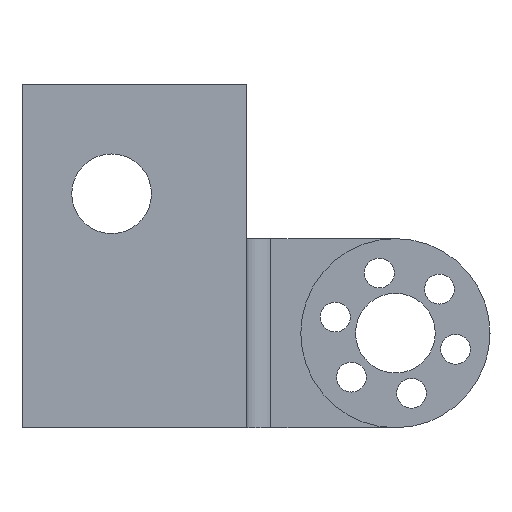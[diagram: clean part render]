
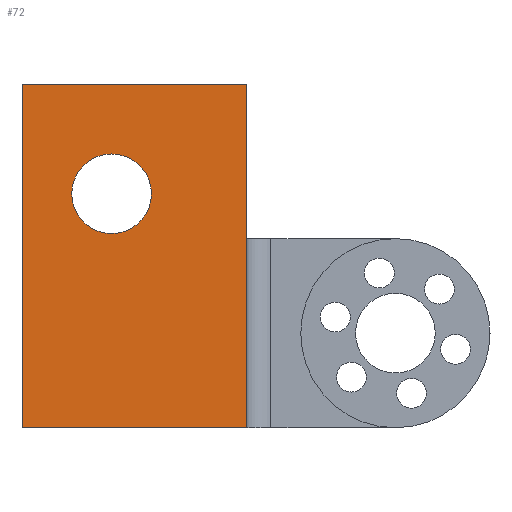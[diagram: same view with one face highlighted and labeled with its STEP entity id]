
A CAD part, left-side view. The second image highlights one B-rep face of the part: STEP entity #72.
In plain terms, the highlighted planar face has unit normal (-1, 0, 0).
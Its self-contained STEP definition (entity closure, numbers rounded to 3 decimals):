
#5 = PLANE ( 'NONE',  #820 ) ;
#7 = EDGE_LOOP ( 'NONE', ( #24, #149, #44, #1407 ) ) ;
#8 = CARTESIAN_POINT ( 'NONE',  ( 0., 0., -34.5 ) ) ;
#24 = ORIENTED_EDGE ( 'NONE', *, *, #1169, .F. ) ;
#44 = ORIENTED_EDGE ( 'NONE', *, *, #1389, .F. ) ;
#72 = ADVANCED_FACE ( 'NONE', ( #675, #875 ), #5, .T. ) ;
#99 = DIRECTION ( 'NONE',  ( -1., 0., 0. ) ) ;
#139 = DIRECTION ( 'NONE',  ( -1., 0., 0. ) ) ;
#141 = VECTOR ( 'NONE', #239, 1000. ) ;
#149 = ORIENTED_EDGE ( 'NONE', *, *, #171, .F. ) ;
#171 = EDGE_CURVE ( 'NONE', #769, #285, #969, .T. ) ;
#206 = VERTEX_POINT ( 'NONE', #1209 ) ;
#227 = CARTESIAN_POINT ( 'NONE',  ( 0., 0., 34.5 ) ) ;
#235 = CARTESIAN_POINT ( 'NONE',  ( 0., 27., 12.5 ) ) ;
#239 = DIRECTION ( 'NONE',  ( 0., 1., 0. ) ) ;
#241 = EDGE_CURVE ( 'NONE', #206, #1170, #1337, .T. ) ;
#249 = DIRECTION ( 'NONE',  ( 0., 0., 1. ) ) ;
#285 = VERTEX_POINT ( 'NONE', #8 ) ;
#330 = DIRECTION ( 'NONE',  ( 0., -1., 0. ) ) ;
#341 = VECTOR ( 'NONE', #534, 1000. ) ;
#388 = ORIENTED_EDGE ( 'NONE', *, *, #241, .F. ) ;
#396 = CARTESIAN_POINT ( 'NONE',  ( 0., 45., 34.5 ) ) ;
#429 = LINE ( 'NONE', #914, #141 ) ;
#458 = DIRECTION ( 'NONE',  ( -1., 0., 0. ) ) ;
#462 = CARTESIAN_POINT ( 'NONE',  ( 0., 45., -34.5 ) ) ;
#506 = LINE ( 'NONE', #982, #1081 ) ;
#534 = DIRECTION ( 'NONE',  ( 0., 0., -1. ) ) ;
#547 = DIRECTION ( 'NONE',  ( 0., 0., 1. ) ) ;
#581 = VERTEX_POINT ( 'NONE', #396 ) ;
#589 = DIRECTION ( 'NONE',  ( 0., 0., 1. ) ) ;
#597 = EDGE_CURVE ( 'NONE', #1195, #581, #506, .T. ) ;
#675 = FACE_OUTER_BOUND ( 'NONE', #7, .T. ) ;
#769 = VERTEX_POINT ( 'NONE', #227 ) ;
#785 = CARTESIAN_POINT ( 'NONE',  ( 0., 27., 12.5 ) ) ;
#809 = LINE ( 'NONE', #1035, #1143 ) ;
#820 = AXIS2_PLACEMENT_3D ( 'NONE', #1244, #139, #249 ) ;
#827 = CIRCLE ( 'NONE', #1392, 8. ) ;
#875 = FACE_BOUND ( 'NONE', #1449, .T. ) ;
#882 = CARTESIAN_POINT ( 'NONE',  ( 0., 0., 34.5 ) ) ;
#902 = EDGE_CURVE ( 'NONE', #1170, #206, #827, .T. ) ;
#914 = CARTESIAN_POINT ( 'NONE',  ( 0., 0., -34.5 ) ) ;
#969 = LINE ( 'NONE', #882, #341 ) ;
#982 = CARTESIAN_POINT ( 'NONE',  ( 0., 45., 34.5 ) ) ;
#1019 = AXIS2_PLACEMENT_3D ( 'NONE', #785, #99, #547 ) ;
#1020 = CARTESIAN_POINT ( 'NONE',  ( 0., 27., 20.5 ) ) ;
#1035 = CARTESIAN_POINT ( 'NONE',  ( 0., 0., 34.5 ) ) ;
#1081 = VECTOR ( 'NONE', #1450, 1000. ) ;
#1143 = VECTOR ( 'NONE', #330, 1000. ) ;
#1169 = EDGE_CURVE ( 'NONE', #285, #1195, #429, .T. ) ;
#1170 = VERTEX_POINT ( 'NONE', #1020 ) ;
#1195 = VERTEX_POINT ( 'NONE', #462 ) ;
#1209 = CARTESIAN_POINT ( 'NONE',  ( 0., 27., 4.5 ) ) ;
#1244 = CARTESIAN_POINT ( 'NONE',  ( 0., 45., -34.5 ) ) ;
#1337 = CIRCLE ( 'NONE', #1019, 8. ) ;
#1389 = EDGE_CURVE ( 'NONE', #581, #769, #809, .T. ) ;
#1392 = AXIS2_PLACEMENT_3D ( 'NONE', #235, #458, #589 ) ;
#1407 = ORIENTED_EDGE ( 'NONE', *, *, #597, .F. ) ;
#1449 = EDGE_LOOP ( 'NONE', ( #388, #1459 ) ) ;
#1450 = DIRECTION ( 'NONE',  ( 0., 0., 1. ) ) ;
#1459 = ORIENTED_EDGE ( 'NONE', *, *, #902, .F. ) ;
